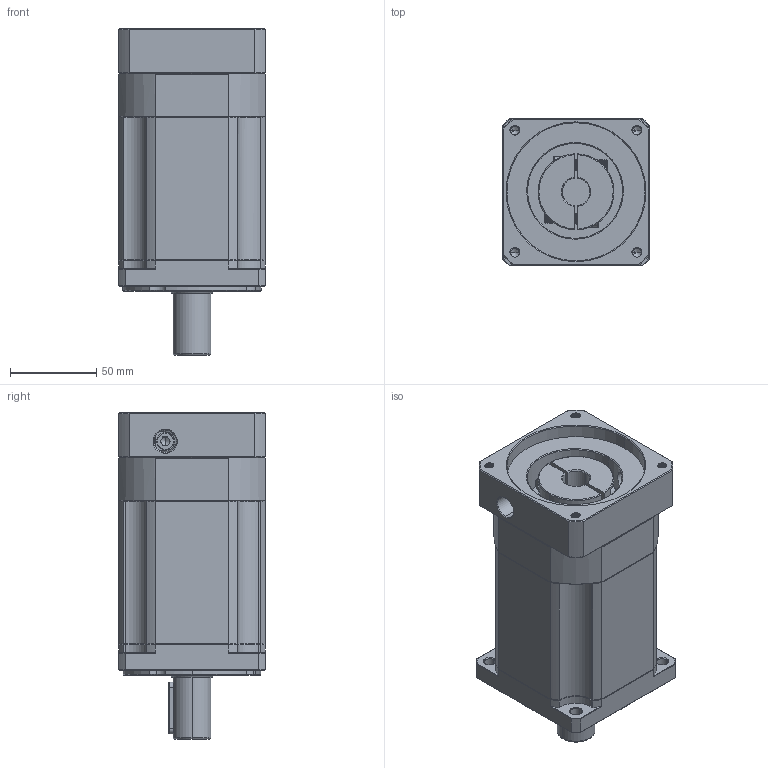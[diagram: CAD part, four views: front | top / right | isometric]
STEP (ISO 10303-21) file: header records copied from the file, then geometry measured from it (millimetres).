
FILE_DESCRIPTION (( 'STEP AP214' ), '1' );
FILE_NAME ('ZB090-D22-L3-P2-16-80-100-M6.step', '2023-08-18T12:15:24', ( '' ), ( '' ), 'SwSTEP 2.0', 'SolidWorks 2016', '' );
FILE_SCHEMA (( 'AUTOMOTIVE_DESIGN' ));
Length unit declared in the file: millimetre
Products named in the file (1): ZB090-D22-L3-P2-16-80-100-M6
Bounding box: 85 x 85 x 189 mm (x, y, z)
Volume: 906259 mm3; surface area: 101357.3 mm2
Topology: 4 solids, 5 shells, 2219 faces, 5885 edges, 3751 vertices
Faces by surface type: plane 1066, bspline 397, cylinder 396, cone 333, torus 27
Entity records: 120627 total; most frequent: CARTESIAN_POINT 44564, ORIENTED_EDGE 11726, DIRECTION 9169, EDGE_CURVE 5863, VERTEX_POINT 3751, VECTOR 3723, LINE 3723, AXIS2_PLACEMENT_3D 2723
